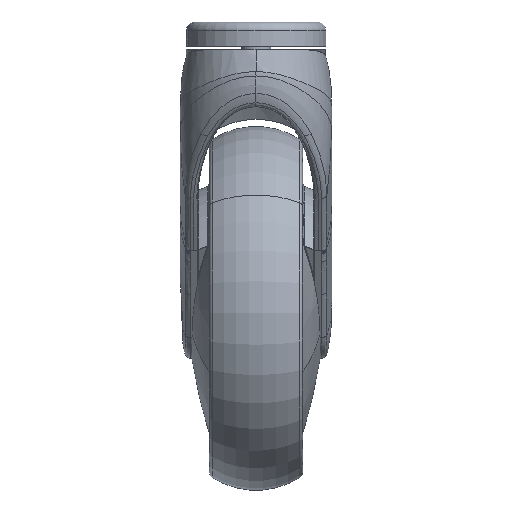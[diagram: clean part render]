
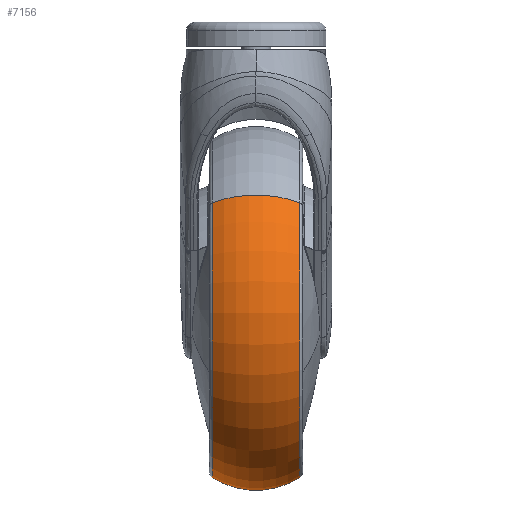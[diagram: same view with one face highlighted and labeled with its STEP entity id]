
A CAD part, left-side view. The second image highlights one B-rep face of the part: STEP entity #7156.
In plain terms, the highlighted toroidal (fillet/blend) face has major radius 34.5 mm and minor radius 28 mm.
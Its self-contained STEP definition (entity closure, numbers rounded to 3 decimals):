
#3607 = AXIS2_PLACEMENT_3D ( 'NONE', #3667, #3666, #3665 ) ;
#3608 = CIRCLE ( 'NONE', #3607, 58.094 ) ;
#3610 = CARTESIAN_POINT ( 'NONE',  ( -45.445, 15.077, 36.189 ) ) ;
#3616 = DIRECTION ( 'NONE',  ( 0.782, 0., -0.623 ) ) ;
#3617 = DIRECTION ( 'NONE',  ( 0., 1., 0. ) ) ;
#3618 = CARTESIAN_POINT ( 'NONE',  ( 0., 0., 0. ) ) ;
#3619 = AXIS2_PLACEMENT_3D ( 'NONE', #3618, #3617, #3616 ) ;
#3620 = TOROIDAL_SURFACE ( 'NONE', #3619, 34.5, 28. ) ;
#3621 = FACE_OUTER_BOUND ( 'NONE', #7230, .T. ) ;
#3632 = CARTESIAN_POINT ( 'NONE',  ( -45.445, -15.077, 36.189 ) ) ;
#3634 = CARTESIAN_POINT ( 'NONE',  ( 45.445, -15.077, -36.189 ) ) ;
#3658 = DIRECTION ( 'NONE',  ( -0.782, 0., 0.623 ) ) ;
#3659 = DIRECTION ( 'NONE',  ( -0.623, 0., -0.782 ) ) ;
#3660 = CARTESIAN_POINT ( 'NONE',  ( -26.988, 0., 21.491 ) ) ;
#3661 = AXIS2_PLACEMENT_3D ( 'NONE', #3660, #3659, #3658 ) ;
#3662 = CIRCLE ( 'NONE', #3661, 28. ) ;
#3663 = CARTESIAN_POINT ( 'NONE',  ( 45.445, 15.077, -36.189 ) ) ;
#3665 = DIRECTION ( 'NONE',  ( 0.782, 0., -0.623 ) ) ;
#3666 = DIRECTION ( 'NONE',  ( 0., 1., 0. ) ) ;
#3667 = CARTESIAN_POINT ( 'NONE',  ( 0., -15.077, 0. ) ) ;
#3675 = CARTESIAN_POINT ( 'NONE',  ( 26.988, 0., -21.491 ) ) ;
#3682 = DIRECTION ( 'NONE',  ( 0.782, 0., -0.623 ) ) ;
#3683 = DIRECTION ( 'NONE',  ( 0., 1., 0. ) ) ;
#3684 = CARTESIAN_POINT ( 'NONE',  ( 0., 15.077, 0. ) ) ;
#3685 = AXIS2_PLACEMENT_3D ( 'NONE', #3684, #3683, #3682 ) ;
#3686 = CIRCLE ( 'NONE', #3685, 58.094 ) ;
#3734 = DIRECTION ( 'NONE',  ( 0.782, 0., -0.623 ) ) ;
#3735 = DIRECTION ( 'NONE',  ( 0.623, 0., 0.782 ) ) ;
#3736 = AXIS2_PLACEMENT_3D ( 'NONE', #3675, #3735, #3734 ) ;
#3737 = CIRCLE ( 'NONE', #3736, 28. ) ;
#7038 = VERTEX_POINT ( 'NONE', #3634 ) ;
#7044 = VERTEX_POINT ( 'NONE', #3632 ) ;
#7122 = ORIENTED_EDGE ( 'NONE', *, *, #7346, .T. ) ;
#7127 = ORIENTED_EDGE ( 'NONE', *, *, #7620, .F. ) ;
#7156 = ADVANCED_FACE ( 'NONE', ( #3621 ), #3620, .T. ) ;
#7230 = EDGE_LOOP ( 'NONE', ( #7336, #7122, #7127, #7735 ) ) ;
#7311 = VERTEX_POINT ( 'NONE', #3610 ) ;
#7335 = EDGE_CURVE ( 'NONE', #7038, #7044, #3608, .T. ) ;
#7336 = ORIENTED_EDGE ( 'NONE', *, *, #7335, .T. ) ;
#7345 = VERTEX_POINT ( 'NONE', #3663 ) ;
#7346 = EDGE_CURVE ( 'NONE', #7044, #7311, #3662, .T. ) ;
#7620 = EDGE_CURVE ( 'NONE', #7345, #7311, #3686, .T. ) ;
#7692 = EDGE_CURVE ( 'NONE', #7038, #7345, #3737, .T. ) ;
#7735 = ORIENTED_EDGE ( 'NONE', *, *, #7692, .F. ) ;
